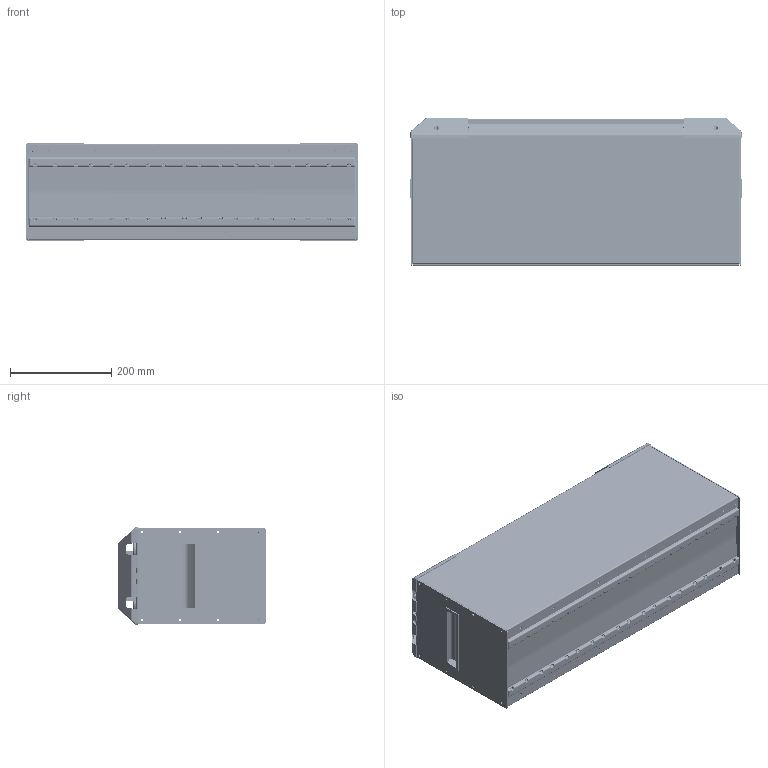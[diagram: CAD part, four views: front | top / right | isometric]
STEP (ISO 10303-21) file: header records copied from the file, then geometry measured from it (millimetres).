
FILE_DESCRIPTION (( 'STEP AP214' ), '1' );
FILE_NAME ('MG3000311A_24V_304Ah_LFP_Total_Assembly.STEP', '2023-02-09T07:19:19', ( '' ), ( '' ), 'SwSTEP 2.0', 'SolidWorks 2018', '' );
FILE_SCHEMA (( 'AUTOMOTIVE_DESIGN' ));
Length unit declared in the file: millimetre
Products named in the file (39): flat washer narrow_am_B18.22M - Plain washer, 5 mm, narrow; MG4000008C_Battery_Terminal_Negative; MG4000110C_24V_280Ah_Sheetmetal_Positive; MG4000528A_24V_304Ah_Sheetmetal_Top; MG5000001A_Handle_Flush_Snapin_PR; MG4000280C_Battery_Pole_Isolation_Spacer; MG4000009B_Battery_Terminal_Positive; M5_SelfClinchingNut; MG500000xA_Battery_Terminal_CF_Fuse_150A; MG4000280C_Battery_Pole_Isolation_Spacer_Red; MG4000002A_Battery_Pole_Lid_Big; MG3000154A_24V_280Ah_LFP_cover_assembly_negative_RJ45; MG4000111C_24V_280Ah_Sheetmetal_Negative; MG4000457C_24V_280Ah_LFP_housing_bottom_plastic; flat washer narrow_am; lock washer spring extra duty_ai_Extra Duty LW 0.19; lock washer spring extra duty_ai; MG3000020B_MG16001_High_Energy_Slave_Controller_CANbus_RJ45_V0_4; pan cross head_am_B18.6.7M - M5 x 0.8 x 20 Type I Cross Recessed PHMS --20N; MG3000153A_24V_280Ah_LFP_cover_assembly_positive; hex nut style 1_am_B18.2.4.1M - Hex nut, Style 1,  M5 x 0.8 --D-N; hex nut style 1_am; MG4000280C_Battery_Pole_Isolation_Spacer_Black; MG3000311A_24V_304Ah_LFP_Total_Assembly; MG500000xA_Battery_Terminal_CF_Fuse; pan cross head_am
Assembly tree (21 placements, depth 3):
  MG5000001A_Handle_Flush_Snapin_PR
  MG4000280C_Battery_Pole_Isolation_Spacer
  MG4000280C_Battery_Pole_Isolation_Spacer
  MG5000001A_Handle_Flush_Snapin_PR
  M5_SelfClinchingNut
Bounding box: 656.29 x 294.03 x 192.96 mm (x, y, z)
Volume: 1550549.4 mm3; surface area: 1907202.7 mm2
Topology: 18 solids, 159 shells, 9984 faces, 27208 edges, 16787 vertices
Faces by surface type: cylinder 3297, plane 3288, bspline 2041, torus 665, cone 408, sphere 285
Entity records: 353720 total; most frequent: CARTESIAN_POINT 116564, ORIENTED_EDGE 48419, DIRECTION 41944, EDGE_CURVE 25638, VERTEX_POINT 16055, AXIS2_PLACEMENT_3D 14665, LINE 12614, VECTOR 12614
